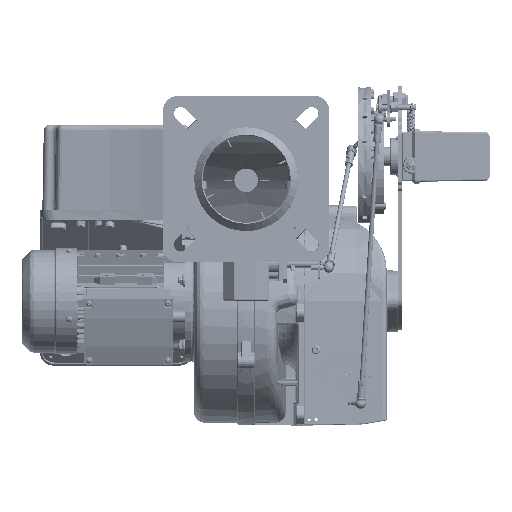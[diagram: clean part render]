
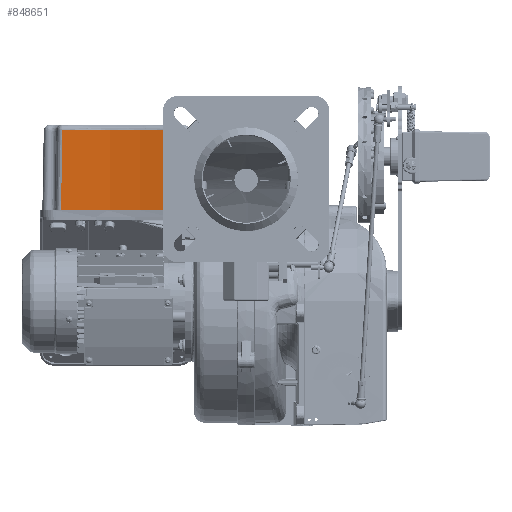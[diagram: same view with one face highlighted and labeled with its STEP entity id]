
A CAD part, top view. The second image highlights one B-rep face of the part: STEP entity #848651.
In plain terms, the highlighted conical face has half-angle 1 degrees and reference radius 626.335 mm.
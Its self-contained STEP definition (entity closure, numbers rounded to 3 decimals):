
#28502 = EDGE_CURVE ( 'NONE', #759070, #400833, #525019, .T. ) ;
#56333 = CARTESIAN_POINT ( 'NONE',  ( 748.559, -1553.372, 2077.921 ) ) ;
#82540 = CARTESIAN_POINT ( 'NONE',  ( 768.963, -1448.733, 1935.467 ) ) ;
#91492 = CARTESIAN_POINT ( 'NONE',  ( 768.963, -1448.733, 1935.467 ) ) ;
#92493 = CARTESIAN_POINT ( 'NONE',  ( 746.805, -1448.733, 2076.115 ) ) ;
#126057 = CARTESIAN_POINT ( 'NONE',  ( 746.805, -1448.733, 2076.115 ) ) ;
#171002 = CARTESIAN_POINT ( 'NONE',  ( 771.362, -1553.372, 1933.668 ) ) ;
#176823 = CARTESIAN_POINT ( 'NONE',  ( 751.92, -1553.372, 2029.223 ) ) ;
#179713 = CARTESIAN_POINT ( 'NONE',  ( 764.761, -1553.372, 1957.154 ) ) ;
#197708 = CARTESIAN_POINT ( 'NONE',  ( 748.992, -1448.733, 2040.502 ) ) ;
#207862 = AXIS2_PLACEMENT_3D ( 'NONE', #865643, #589341, #253615 ) ;
#227068 = CARTESIAN_POINT ( 'NONE',  ( 749.525, -1553.372, 2053.543 ) ) ;
#236601 = EDGE_CURVE ( 'NONE', #783897, #386038, #346934, .T. ) ;
#241531 = CARTESIAN_POINT ( 'NONE',  ( 759.538, -1553.372, 1981.028 ) ) ;
#253615 = DIRECTION ( 'NONE',  ( -1., 0., 0. ) ) ;
#306331 = EDGE_CURVE ( 'NONE', #400833, #783897, #869013, .T. ) ;
#326678 = CARTESIAN_POINT ( 'NONE',  ( 747.975, -1518.529, 2077.319 ) ) ;
#331144 = EDGE_CURVE ( 'NONE', #759070, #386038, #385838, .T. ) ;
#346934 = B_SPLINE_CURVE_WITH_KNOTS ( 'NONE', 3,
 ( #697614, #756537, #824245, #91492 ),
 .UNSPECIFIED., .F., .F.,
 ( 4, 4 ),
 ( 0., 1. ),
 .UNSPECIFIED. ) ;
#385838 = B_SPLINE_CURVE_WITH_KNOTS ( 'NONE', 3,
 ( #92493, #603891, #197708, #456784, #871613, #736275, #530442 ),
 .UNSPECIFIED., .F., .F.,
 ( 4, 1, 1, 1, 4 ),
 ( 0., 0.25, 0.5, 0.75, 1. ),
 .UNSPECIFIED. ) ;
#386038 = VERTEX_POINT ( 'NONE', #82540 ) ;
#400833 = VERTEX_POINT ( 'NONE', #56333 ) ;
#456784 = CARTESIAN_POINT ( 'NONE',  ( 753.54, -1448.733, 2005.106 ) ) ;
#458674 = ORIENTED_EDGE ( 'NONE', *, *, #306331, .T. ) ;
#483022 = EDGE_LOOP ( 'NONE', ( #458674, #784117, #539180, #806028 ) ) ;
#506466 = CARTESIAN_POINT ( 'NONE',  ( 748.559, -1553.372, 2077.921 ) ) ;
#525019 = B_SPLINE_CURVE_WITH_KNOTS ( 'NONE', 3,
 ( #856585, #653571, #326678, #727056 ),
 .UNSPECIFIED., .F., .F.,
 ( 4, 4 ),
 ( 0., 1. ),
 .UNSPECIFIED. ) ;
#530442 = CARTESIAN_POINT ( 'NONE',  ( 768.963, -1448.733, 1935.467 ) ) ;
#539180 = ORIENTED_EDGE ( 'NONE', *, *, #331144, .F. ) ;
#589341 = DIRECTION ( 'NONE',  ( 0., 1., 0. ) ) ;
#603891 = CARTESIAN_POINT ( 'NONE',  ( 747.309, -1448.733, 2064.236 ) ) ;
#643739 = CARTESIAN_POINT ( 'NONE',  ( 771.362, -1553.372, 1933.668 ) ) ;
#653571 = CARTESIAN_POINT ( 'NONE',  ( 747.39, -1483.649, 2076.717 ) ) ;
#697614 = CARTESIAN_POINT ( 'NONE',  ( 771.362, -1553.372, 1933.668 ) ) ;
#727056 = CARTESIAN_POINT ( 'NONE',  ( 748.559, -1553.372, 2077.921 ) ) ;
#734475 = FACE_OUTER_BOUND ( 'NONE', #483022, .T. ) ;
#736275 = CARTESIAN_POINT ( 'NONE',  ( 765.79, -1448.733, 1946.925 ) ) ;
#756537 = CARTESIAN_POINT ( 'NONE',  ( 770.562, -1518.561, 1934.266 ) ) ;
#759070 = VERTEX_POINT ( 'NONE', #126057 ) ;
#783897 = VERTEX_POINT ( 'NONE', #643739 ) ;
#784117 = ORIENTED_EDGE ( 'NONE', *, *, #236601, .T. ) ;
#806028 = ORIENTED_EDGE ( 'NONE', *, *, #28502, .T. ) ;
#824245 = CARTESIAN_POINT ( 'NONE',  ( 769.763, -1483.681, 1934.866 ) ) ;
#840046 = CONICAL_SURFACE ( 'NONE', #207862, 626.335, 0.017 ) ;
#848651 = ADVANCED_FACE ( 'NONE', ( #734475 ), #840046, .F. ) ;
#856585 = CARTESIAN_POINT ( 'NONE',  ( 746.805, -1448.733, 2076.115 ) ) ;
#865643 = CARTESIAN_POINT ( 'NONE',  ( 1372.579, -1448.733, 2102.631 ) ) ;
#869013 = B_SPLINE_CURVE_WITH_KNOTS ( 'NONE', 3,
 ( #506466, #227068, #176823, #241531, #179713, #171002 ),
 .UNSPECIFIED., .F., .F.,
 ( 4, 2, 4 ),
 ( 0., 0.5, 1. ),
 .UNSPECIFIED. ) ;
#871613 = CARTESIAN_POINT ( 'NONE',  ( 760.095, -1448.733, 1970.027 ) ) ;
